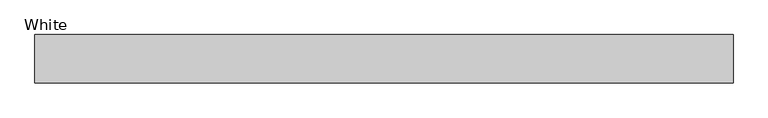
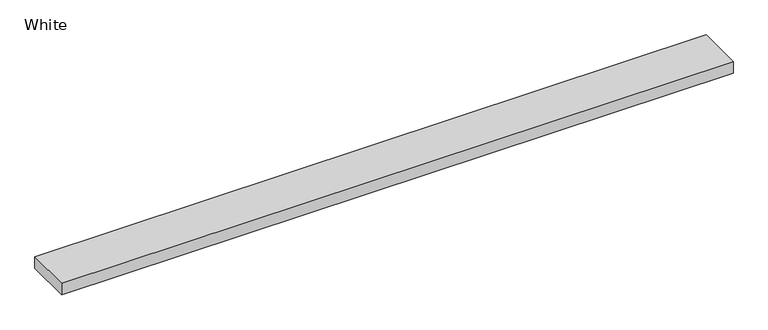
"""IFC4 building model written with IfcOpenShell, lengths in millimetres: proxy geometry, Raceway-5500_Series-Wiremold-Multi_Channel : White."""

from ifc_helpers import new_model, si_unit, origin, origin_with_axes, place, context, project, spatial, polyline, outline, extrude, source, transform, mapped, element, save


def white_5b7825d7(model_context):
    return source(origin(), model_context, "Body", "SweptSolid", [
        extrude(outline(polyline([(2457.7046619, 84.9376), (2457.7046619, -84.9376), (0.0, -84.9376), (0.0, 84.9376), (2457.7046619, 84.9376)])), origin_with_axes(), (0.0, 0.0, 1.0), 44.45),
    ])


if __name__ == "__main__":
    model = new_model("IFC4")
    model_context = context("Model", 3, world=origin())
    ifc_project = project(units=[si_unit("LENGTHUNIT", "METRE", prefix="MILLI")], contexts=[model_context])
    site = spatial("IfcSite", under=ifc_project)
    building = spatial("IfcBuilding", under=site)
    placement = place(None, origin())
    white_shape = white_5b7825d7(model_context)
    element("IfcBuildingElementProxy", 1, Name="Raceway-5500_Series-Wiremold-Multi_Channel : White", ObjectType="Raceway-5500_Series-Wiremold-Multi_Channel : White", at=placement, inside=building, context=model_context, shape_type="MappedRepresentation", body=[
        mapped(white_shape, transform((0.0, 0.0, 0.0), x_axis=(1.0, 0.0, 0.0), y_axis=(0.0, 1.0, 0.0), z_axis=(0.0, 0.0, 1.0))),
    ])
    save(model, "model.ifc")
